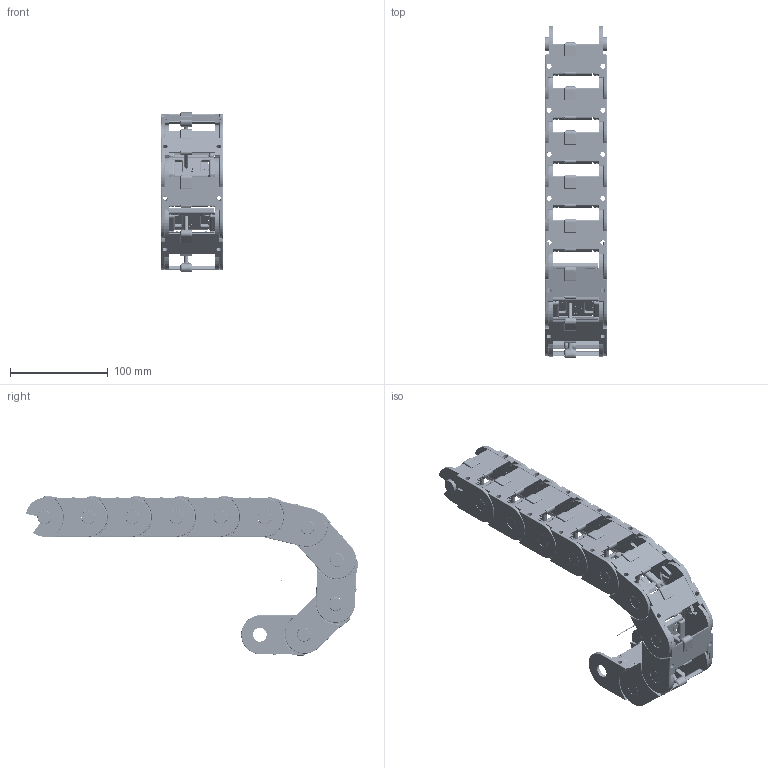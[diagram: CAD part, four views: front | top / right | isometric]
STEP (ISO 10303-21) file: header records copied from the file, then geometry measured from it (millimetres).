
FILE_DESCRIPTION((''),'2;1');
FILE_NAME('C:\Uebbing\PARAMETERKETTEN\KOLIBRI\Kol_40_062_2\Kol_40_062_2_R40.stp','2012-03-05T13:15:49',('Uebbing'),(''),'Autodesk Inventor 10','Autodesk Inventor 10','');
FILE_SCHEMA(('AUTOMOTIVE_DESIGN { 1 0 10303 214 1 1 1 1 }'));
Length unit declared in the file: millimetre
Products named in the file (6): KOLIBRI 40_062_2_PARAMETRISCH; Achse; Kol_40_062_2; Kol_40_062_2_PZ; Kol_40_062_2_Klappsteg
Assembly tree (14 placements, depth 3):
  KOLIBRI 40_062_2_PARAMETRISCH
    Achse
    Kol_40_062_2  x10
      Kol_40_062_2_PZ
      Kol_40_062_2
      Kol_40_062_2_Klappsteg
Bounding box: 63 x 339.04 x 162.97 mm (x, y, z)
Volume: 350247.4 mm3; surface area: 255950.3 mm2
Topology: 31 solids, 101 shells, 10883 faces, 28824 edges, 18633 vertices
Faces by surface type: bspline 4630, plane 4152, cylinder 1741, torus 220, sphere 100, cone 40
Full cylindrical faces by diameter (mm): 1 x1, 1.609 x10, 2.825 x10, 3.4 x40, 3.5 x20, 4 x40, 5 x10, 6 x10, 14 x10, 14.1 x10
Entity records: 38289 total; most frequent: CARTESIAN_POINT 13116, ORIENTED_EDGE 5674, DIRECTION 4287, EDGE_CURVE 2837, VERTEX_POINT 1853, VECTOR 1759, LINE 1759, AXIS2_PLACEMENT_3D 1264
